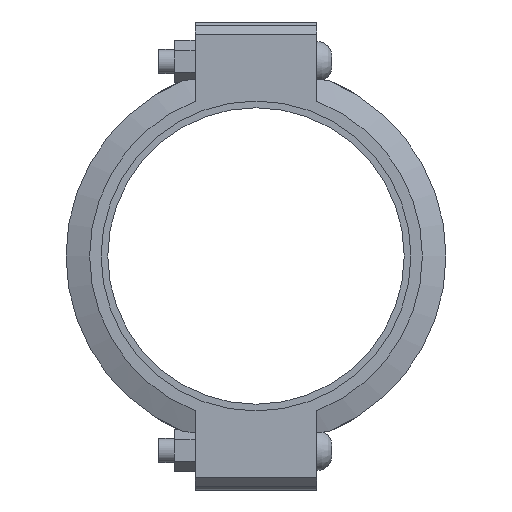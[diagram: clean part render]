
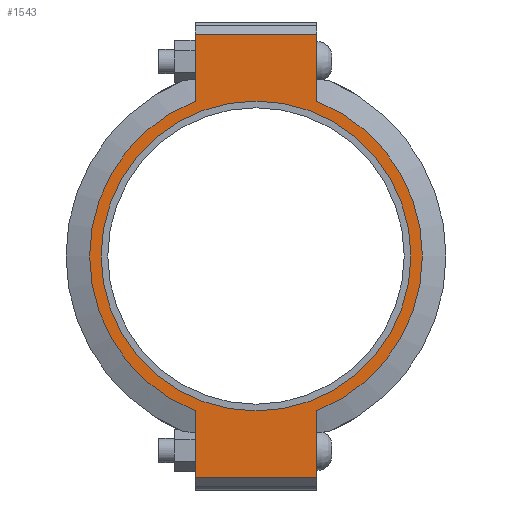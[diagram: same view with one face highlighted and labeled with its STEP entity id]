
A CAD part, left-side view. The second image highlights one B-rep face of the part: STEP entity #1543.
In plain terms, the highlighted planar face has unit normal (-1, 0, 0) as drawn and (0, 0, 1) by its records, which use the part's own axes.
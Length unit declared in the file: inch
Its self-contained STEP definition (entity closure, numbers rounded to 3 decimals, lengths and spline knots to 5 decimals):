
#170=LINE('',#2649,#257);
#181=LINE('',#2700,#268);
#187=LINE('',#2726,#274);
#189=LINE('',#2729,#276);
#190=LINE('',#2734,#277);
#191=LINE('',#2735,#278);
#257=VECTOR('',#2143,0.3937);
#268=VECTOR('',#2174,0.3937);
#274=VECTOR('',#2192,0.3937);
#276=VECTOR('',#2196,0.3937);
#277=VECTOR('',#2201,0.3937);
#278=VECTOR('',#2202,0.3937);
#336=FACE_BOUND('',#495,.T.);
#396=FACE_OUTER_BOUND('',#494,.T.);
#494=EDGE_LOOP('',(#1232,#1233,#1234,#1235,#1236,#1237,#1238,#1239));
#495=EDGE_LOOP('',(#1240));
#600=CIRCLE('',#1806,6.84375);
#601=CIRCLE('',#1807,6.84375);
#602=CIRCLE('',#1808,6.375);
#709=VERTEX_POINT('',#2646);
#710=VERTEX_POINT('',#2648);
#727=VERTEX_POINT('',#2695);
#728=VERTEX_POINT('',#2699);
#735=VERTEX_POINT('',#2721);
#736=VERTEX_POINT('',#2725);
#737=VERTEX_POINT('',#2731);
#738=VERTEX_POINT('',#2733);
#739=VERTEX_POINT('',#2737);
#879=EDGE_CURVE('',#710,#709,#170,.T.);
#900=EDGE_CURVE('',#728,#727,#181,.T.);
#911=EDGE_CURVE('',#736,#735,#187,.T.);
#913=EDGE_CURVE('',#736,#709,#189,.T.);
#914=EDGE_CURVE('',#735,#737,#600,.T.);
#915=EDGE_CURVE('',#737,#738,#190,.T.);
#916=EDGE_CURVE('',#728,#738,#191,.T.);
#917=EDGE_CURVE('',#727,#710,#601,.T.);
#918=EDGE_CURVE('',#739,#739,#602,.T.);
#1232=ORIENTED_EDGE('',*,*,#913,.F.);
#1233=ORIENTED_EDGE('',*,*,#911,.T.);
#1234=ORIENTED_EDGE('',*,*,#914,.T.);
#1235=ORIENTED_EDGE('',*,*,#915,.T.);
#1236=ORIENTED_EDGE('',*,*,#916,.F.);
#1237=ORIENTED_EDGE('',*,*,#900,.T.);
#1238=ORIENTED_EDGE('',*,*,#917,.T.);
#1239=ORIENTED_EDGE('',*,*,#879,.T.);
#1240=ORIENTED_EDGE('',*,*,#918,.T.);
#1395=PLANE('',#1805);
#1543=ADVANCED_FACE('',(#396,#336),#1395,.T.);
#1805=AXIS2_PLACEMENT_3D('',#2730,#2197,#2198);
#1806=AXIS2_PLACEMENT_3D('',#2732,#2199,#2200);
#1807=AXIS2_PLACEMENT_3D('',#2736,#2203,#2204);
#1808=AXIS2_PLACEMENT_3D('',#2738,#2205,#2206);
#2143=DIRECTION('',(1.,0.,0.));
#2174=DIRECTION('',(1.,0.,0.));
#2192=DIRECTION('',(-1.,0.,0.));
#2196=DIRECTION('',(0.,-1.,0.));
#2197=DIRECTION('center_axis',(0.,0.,1.));
#2198=DIRECTION('ref_axis',(-1.,0.,0.));
#2199=DIRECTION('center_axis',(0.,0.,1.));
#2200=DIRECTION('ref_axis',(1.,0.,0.));
#2201=DIRECTION('',(-1.,0.,0.));
#2202=DIRECTION('',(0.,1.,0.));
#2203=DIRECTION('center_axis',(0.,0.,1.));
#2204=DIRECTION('ref_axis',(1.,0.,0.));
#2205=DIRECTION('center_axis',(0.,0.,-1.));
#2206=DIRECTION('ref_axis',(1.,0.,0.));
#2646=CARTESIAN_POINT('',(9.125,-2.5,1.315));
#2648=CARTESIAN_POINT('',(6.37079,-2.5,1.315));
#2649=CARTESIAN_POINT('',(-9.625,-2.5,1.315));
#2695=CARTESIAN_POINT('',(-6.37079,-2.5,1.315));
#2699=CARTESIAN_POINT('',(-9.125,-2.5,1.315));
#2700=CARTESIAN_POINT('',(-9.625,-2.5,1.315));
#2721=CARTESIAN_POINT('',(6.37079,2.5,1.315));
#2725=CARTESIAN_POINT('',(9.125,2.5,1.315));
#2726=CARTESIAN_POINT('',(9.625,2.5,1.315));
#2729=CARTESIAN_POINT('',(9.125,-1.25,1.315));
#2730=CARTESIAN_POINT('Origin',(0.,0.,
1.315));
#2731=CARTESIAN_POINT('',(-6.37079,2.5,1.315));
#2732=CARTESIAN_POINT('Origin',(0.,0.,1.315));
#2733=CARTESIAN_POINT('',(-9.125,2.5,1.315));
#2734=CARTESIAN_POINT('',(9.625,2.5,1.315));
#2735=CARTESIAN_POINT('',(-9.125,1.25,1.315));
#2736=CARTESIAN_POINT('Origin',(0.,0.,1.315));
#2737=CARTESIAN_POINT('',(-6.375,0.,1.315));
#2738=CARTESIAN_POINT('Origin',(0.,0.,1.315));
